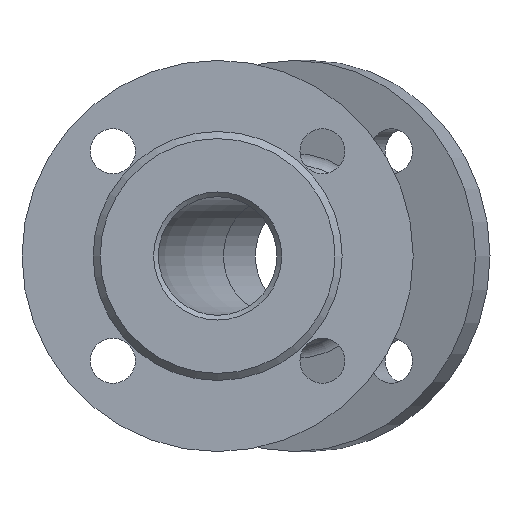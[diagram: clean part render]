
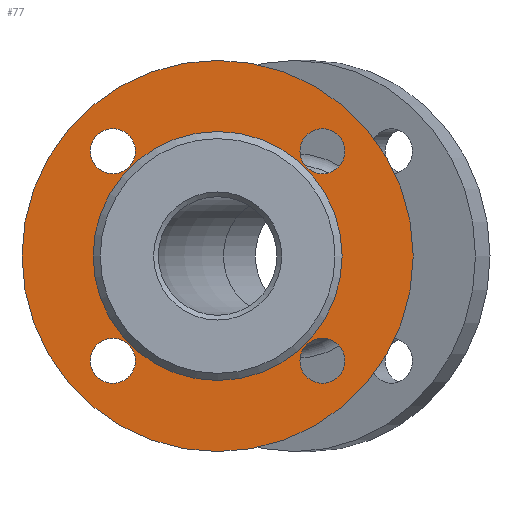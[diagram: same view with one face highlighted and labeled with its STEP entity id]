
A CAD part, left-side view. The second image highlights one B-rep face of the part: STEP entity #77.
In plain terms, the highlighted planar face has unit normal (-1, 0, 0).
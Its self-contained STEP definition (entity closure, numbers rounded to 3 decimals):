
#11 = DIRECTION ( 'NONE',  ( 0., 0., -1. ) ) ;
#26 = DIRECTION ( 'NONE',  ( 0., 0., -1. ) ) ;
#77 = ADVANCED_FACE ( 'NONE', ( #1728, #2237, #2254, #659, #2806, #392 ), #1460, .F. ) ;
#118 = CIRCLE ( 'NONE', #2188, 52.5 ) ;
#149 = CARTESIAN_POINT ( 'NONE',  ( -101., -44.194, -53.694 ) ) ;
#229 = DIRECTION ( 'NONE',  ( -1., 0., 0. ) ) ;
#392 = FACE_BOUND ( 'NONE', #2362, .T. ) ;
#473 = DIRECTION ( 'NONE',  ( 0., 0., -1. ) ) ;
#547 = ORIENTED_EDGE ( 'NONE', *, *, #1495, .F. ) ;
#551 = CIRCLE ( 'NONE', #1449, 9.5 ) ;
#568 = DIRECTION ( 'NONE',  ( -1., 0., 0. ) ) ;
#609 = EDGE_CURVE ( 'NONE', #1697, #1697, #1732, .T. ) ;
#659 = FACE_BOUND ( 'NONE', #1674, .T. ) ;
#677 = AXIS2_PLACEMENT_3D ( 'NONE', #806, #229, #2958 ) ;
#714 = EDGE_LOOP ( 'NONE', ( #2701 ) ) ;
#778 = ORIENTED_EDGE ( 'NONE', *, *, #3198, .T. ) ;
#806 = CARTESIAN_POINT ( 'NONE',  ( -101., -44.194, 44.194 ) ) ;
#886 = AXIS2_PLACEMENT_3D ( 'NONE', #1764, #954, #473 ) ;
#915 = VERTEX_POINT ( 'NONE', #1455 ) ;
#954 = DIRECTION ( 'NONE',  ( 1., 0., 0. ) ) ;
#1045 = EDGE_LOOP ( 'NONE', ( #3357 ) ) ;
#1230 = AXIS2_PLACEMENT_3D ( 'NONE', #3224, #1907, #11 ) ;
#1376 = EDGE_LOOP ( 'NONE', ( #547 ) ) ;
#1389 = ORIENTED_EDGE ( 'NONE', *, *, #609, .F. ) ;
#1445 = EDGE_LOOP ( 'NONE', ( #1389 ) ) ;
#1449 = AXIS2_PLACEMENT_3D ( 'NONE', #1887, #2949, #2391 ) ;
#1455 = CARTESIAN_POINT ( 'NONE',  ( -101., 0., -52.5 ) ) ;
#1460 = PLANE ( 'NONE',  #886 ) ;
#1495 = EDGE_CURVE ( 'NONE', #2189, #2189, #551, .T. ) ;
#1534 = DIRECTION ( 'NONE',  ( 1., 0., 0. ) ) ;
#1539 = EDGE_CURVE ( 'NONE', #1660, #1660, #2289, .T. ) ;
#1573 = DIRECTION ( 'NONE',  ( 1., 0., 0. ) ) ;
#1660 = VERTEX_POINT ( 'NONE', #1713 ) ;
#1674 = EDGE_LOOP ( 'NONE', ( #778 ) ) ;
#1697 = VERTEX_POINT ( 'NONE', #2718 ) ;
#1713 = CARTESIAN_POINT ( 'NONE',  ( -101., 44.194, -53.694 ) ) ;
#1728 = FACE_BOUND ( 'NONE', #1376, .T. ) ;
#1732 = CIRCLE ( 'NONE', #2177, 82.5 ) ;
#1764 = CARTESIAN_POINT ( 'NONE',  ( -101., 82.5, 0. ) ) ;
#1792 = VERTEX_POINT ( 'NONE', #2058 ) ;
#1846 = AXIS2_PLACEMENT_3D ( 'NONE', #2445, #568, #26 ) ;
#1887 = CARTESIAN_POINT ( 'NONE',  ( -101., 44.194, 44.194 ) ) ;
#1903 = CIRCLE ( 'NONE', #1846, 9.5 ) ;
#1907 = DIRECTION ( 'NONE',  ( -1., 0., 0. ) ) ;
#2058 = CARTESIAN_POINT ( 'NONE',  ( -101., -44.194, 34.694 ) ) ;
#2062 = EDGE_CURVE ( 'NONE', #2820, #2820, #1903, .T. ) ;
#2177 = AXIS2_PLACEMENT_3D ( 'NONE', #3147, #1573, #3413 ) ;
#2188 = AXIS2_PLACEMENT_3D ( 'NONE', #3410, #1534, #3098 ) ;
#2189 = VERTEX_POINT ( 'NONE', #3284 ) ;
#2237 = FACE_BOUND ( 'NONE', #714, .T. ) ;
#2254 = FACE_OUTER_BOUND ( 'NONE', #1445, .T. ) ;
#2289 = CIRCLE ( 'NONE', #1230, 9.5 ) ;
#2362 = EDGE_LOOP ( 'NONE', ( #3431 ) ) ;
#2391 = DIRECTION ( 'NONE',  ( 0., 0., -1. ) ) ;
#2445 = CARTESIAN_POINT ( 'NONE',  ( -101., -44.194, -44.194 ) ) ;
#2701 = ORIENTED_EDGE ( 'NONE', *, *, #2062, .F. ) ;
#2718 = CARTESIAN_POINT ( 'NONE',  ( -101., 0., -82.5 ) ) ;
#2806 = FACE_BOUND ( 'NONE', #1045, .T. ) ;
#2820 = VERTEX_POINT ( 'NONE', #149 ) ;
#2932 = EDGE_CURVE ( 'NONE', #1792, #1792, #3097, .T. ) ;
#2949 = DIRECTION ( 'NONE',  ( -1., 0., 0. ) ) ;
#2958 = DIRECTION ( 'NONE',  ( 0., 0., -1. ) ) ;
#3097 = CIRCLE ( 'NONE', #677, 9.5 ) ;
#3098 = DIRECTION ( 'NONE',  ( 0., 0., -1. ) ) ;
#3147 = CARTESIAN_POINT ( 'NONE',  ( -101., 0., 0. ) ) ;
#3198 = EDGE_CURVE ( 'NONE', #915, #915, #118, .T. ) ;
#3224 = CARTESIAN_POINT ( 'NONE',  ( -101., 44.194, -44.194 ) ) ;
#3284 = CARTESIAN_POINT ( 'NONE',  ( -101., 44.194, 34.694 ) ) ;
#3357 = ORIENTED_EDGE ( 'NONE', *, *, #2932, .F. ) ;
#3410 = CARTESIAN_POINT ( 'NONE',  ( -101., 0., 0. ) ) ;
#3413 = DIRECTION ( 'NONE',  ( 0., 0., -1. ) ) ;
#3431 = ORIENTED_EDGE ( 'NONE', *, *, #1539, .F. ) ;
